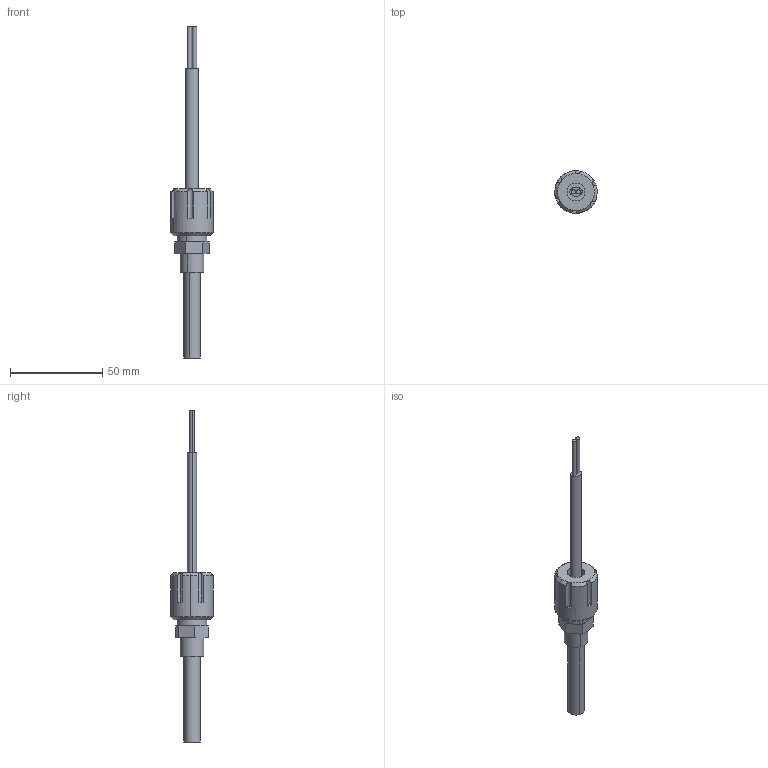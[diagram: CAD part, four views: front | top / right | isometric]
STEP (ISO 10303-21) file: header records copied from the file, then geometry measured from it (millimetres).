
FILE_DESCRIPTION (( 'STEP AP214' ), '1' );
FILE_NAME ('sf-fiber-optic-stroke-detect.STEP', '2012-11-21T22:50:44', ( '' ), ( '' ), 'SwSTEP 2.0', 'SolidWorks 2012', '' );
FILE_SCHEMA (( 'AUTOMOTIVE_DESIGN' ));
Length unit declared in the file: inch
Products named in the file (1): sf-fiber-optic-stroke-detect
Bounding box: 23.1 x 23.09 x 180.21 mm (x, y, z)
Volume: 21804 mm3; surface area: 10643.6 mm2
Topology: 4 solids, 4 shells, 67 faces, 152 edges, 97 vertices
Faces by surface type: plane 34, cylinder 22, cone 9, bspline 2
Entity records: 2463 total; most frequent: CARTESIAN_POINT 529, DIRECTION 339, ORIENTED_EDGE 304, EDGE_CURVE 152, AXIS2_PLACEMENT_3D 139, VERTEX_POINT 97, CIRCLE 73, EDGE_LOOP 71
